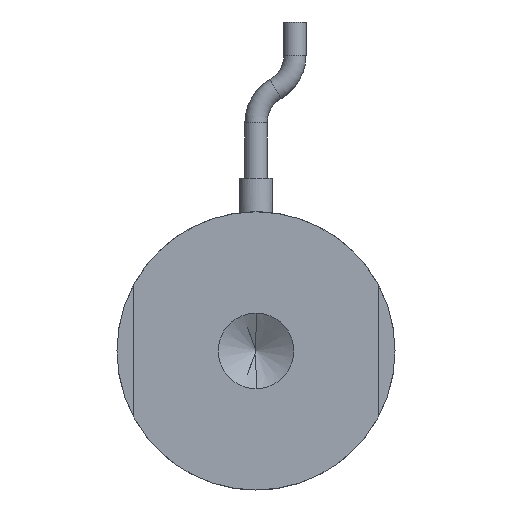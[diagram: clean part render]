
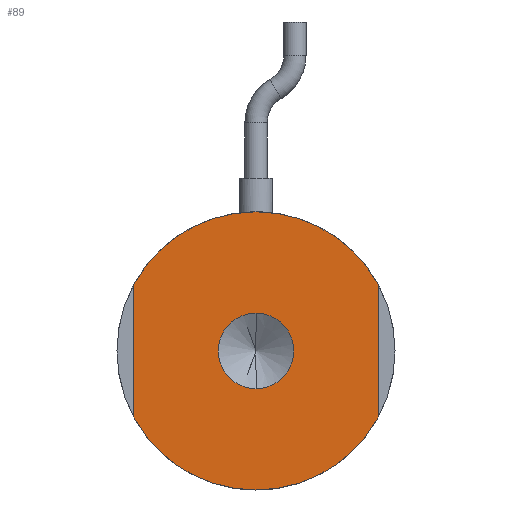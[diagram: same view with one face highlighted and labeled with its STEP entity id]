
A CAD part, front view. The second image highlights one B-rep face of the part: STEP entity #89.
In plain terms, the highlighted planar face has unit normal (0, -1, 0).
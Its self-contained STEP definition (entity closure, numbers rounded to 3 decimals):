
#89 = ADVANCED_FACE ( 'NONE', ( #26316, #44631 ), #21420, .F. ) ;
#108 = DIRECTION ( 'NONE',  ( 0., 1., 0. ) ) ;
#2058 = CARTESIAN_POINT ( 'NONE',  ( 0., 0., -12.5 ) ) ;
#2111 = CARTESIAN_POINT ( 'NONE',  ( 0., 0., 3.4 ) ) ;
#2382 = CIRCLE ( 'NONE', #31626, 12.5 ) ;
#2419 = CARTESIAN_POINT ( 'NONE',  ( 0., 0., 0. ) ) ;
#2482 = AXIS2_PLACEMENT_3D ( 'NONE', #24730, #3272, #28342 ) ;
#2582 = CARTESIAN_POINT ( 'NONE',  ( -11., 0., -5.937 ) ) ;
#2799 = CARTESIAN_POINT ( 'NONE',  ( -11., 0., 0. ) ) ;
#3272 = DIRECTION ( 'NONE',  ( 0., -1., 0. ) ) ;
#4032 = AXIS2_PLACEMENT_3D ( 'NONE', #35169, #13910, #38615 ) ;
#4459 = VERTEX_POINT ( 'NONE', #32992 ) ;
#4636 = ORIENTED_EDGE ( 'NONE', *, *, #41719, .F. ) ;
#4978 = VECTOR ( 'NONE', #34311, 1000. ) ;
#5203 = CIRCLE ( 'NONE', #4032, 3.4 ) ;
#5210 = EDGE_LOOP ( 'NONE', ( #4636, #36019 ) ) ;
#5829 = CARTESIAN_POINT ( 'NONE',  ( 0., 0., 12.5 ) ) ;
#5958 = DIRECTION ( 'NONE',  ( 0., 0., 1. ) ) ;
#6734 = VERTEX_POINT ( 'NONE', #5829 ) ;
#8045 = AXIS2_PLACEMENT_3D ( 'NONE', #2419, #27483, #5958 ) ;
#8086 = AXIS2_PLACEMENT_3D ( 'NONE', #21500, #108, #25138 ) ;
#8159 = EDGE_CURVE ( 'NONE', #40432, #28116, #41391, .T. ) ;
#9712 = CIRCLE ( 'NONE', #2482, 3.4 ) ;
#9881 = LINE ( 'NONE', #2799, #30112 ) ;
#11429 = EDGE_CURVE ( 'NONE', #4459, #6734, #19432, .T. ) ;
#12204 = CARTESIAN_POINT ( 'NONE',  ( 0., 0., 0. ) ) ;
#13328 = CARTESIAN_POINT ( 'NONE',  ( 11., 0., -5.937 ) ) ;
#13535 = VERTEX_POINT ( 'NONE', #2058 ) ;
#13910 = DIRECTION ( 'NONE',  ( 0., -1., 0. ) ) ;
#15536 = DIRECTION ( 'NONE',  ( 0., 0., 1. ) ) ;
#15802 = DIRECTION ( 'NONE',  ( 0., 0., 1. ) ) ;
#16244 = EDGE_CURVE ( 'NONE', #6734, #40432, #28398, .T. ) ;
#16523 = DIRECTION ( 'NONE',  ( 0., 1., 0. ) ) ;
#16869 = CARTESIAN_POINT ( 'NONE',  ( 0., 0., 0. ) ) ;
#17929 = CARTESIAN_POINT ( 'NONE',  ( 0., 0., -3.4 ) ) ;
#19432 = CIRCLE ( 'NONE', #8045, 12.5 ) ;
#20490 = DIRECTION ( 'NONE',  ( 0., 0., 1. ) ) ;
#20582 = ORIENTED_EDGE ( 'NONE', *, *, #41084, .F. ) ;
#21420 = PLANE ( 'NONE',  #41537 ) ;
#21500 = CARTESIAN_POINT ( 'NONE',  ( 0., 0., 0. ) ) ;
#21917 = EDGE_CURVE ( 'NONE', #39411, #27584, #5203, .T. ) ;
#23703 = EDGE_LOOP ( 'NONE', ( #25145, #20582, #35420, #44523, #45063, #24976 ) ) ;
#24707 = EDGE_CURVE ( 'NONE', #28116, #13535, #2382, .T. ) ;
#24730 = CARTESIAN_POINT ( 'NONE',  ( 0., 0., 0. ) ) ;
#24866 = VERTEX_POINT ( 'NONE', #2582 ) ;
#24976 = ORIENTED_EDGE ( 'NONE', *, *, #11429, .F. ) ;
#25138 = DIRECTION ( 'NONE',  ( 0., 0., 1. ) ) ;
#25145 = ORIENTED_EDGE ( 'NONE', *, *, #33490, .F. ) ;
#26316 = FACE_BOUND ( 'NONE', #5210, .T. ) ;
#27483 = DIRECTION ( 'NONE',  ( 0., 1., 0. ) ) ;
#27584 = VERTEX_POINT ( 'NONE', #17929 ) ;
#27863 = DIRECTION ( 'NONE',  ( 0., 0., 1. ) ) ;
#28116 = VERTEX_POINT ( 'NONE', #13328 ) ;
#28342 = DIRECTION ( 'NONE',  ( 0., 0., -1. ) ) ;
#28398 = CIRCLE ( 'NONE', #33134, 12.5 ) ;
#30112 = VECTOR ( 'NONE', #27863, 1000. ) ;
#31245 = CARTESIAN_POINT ( 'NONE',  ( 11., 0., 5.937 ) ) ;
#31617 = CARTESIAN_POINT ( 'NONE',  ( 0., 0., 0. ) ) ;
#31626 = AXIS2_PLACEMENT_3D ( 'NONE', #12204, #36968, #15802 ) ;
#32992 = CARTESIAN_POINT ( 'NONE',  ( -11., 0., 5.937 ) ) ;
#33134 = AXIS2_PLACEMENT_3D ( 'NONE', #16869, #41406, #20490 ) ;
#33490 = EDGE_CURVE ( 'NONE', #24866, #4459, #9881, .T. ) ;
#34311 = DIRECTION ( 'NONE',  ( 0., 0., -1. ) ) ;
#35169 = CARTESIAN_POINT ( 'NONE',  ( 0., 0., 0. ) ) ;
#35420 = ORIENTED_EDGE ( 'NONE', *, *, #24707, .F. ) ;
#36019 = ORIENTED_EDGE ( 'NONE', *, *, #21917, .F. ) ;
#36968 = DIRECTION ( 'NONE',  ( 0., 1., 0. ) ) ;
#37604 = CARTESIAN_POINT ( 'NONE',  ( 11., 0., 0. ) ) ;
#38615 = DIRECTION ( 'NONE',  ( 0., 0., -1. ) ) ;
#39411 = VERTEX_POINT ( 'NONE', #2111 ) ;
#40432 = VERTEX_POINT ( 'NONE', #31245 ) ;
#41084 = EDGE_CURVE ( 'NONE', #13535, #24866, #44402, .T. ) ;
#41391 = LINE ( 'NONE', #37604, #4978 ) ;
#41406 = DIRECTION ( 'NONE',  ( 0., 1., 0. ) ) ;
#41537 = AXIS2_PLACEMENT_3D ( 'NONE', #31617, #16523, #15536 ) ;
#41719 = EDGE_CURVE ( 'NONE', #27584, #39411, #9712, .T. ) ;
#44402 = CIRCLE ( 'NONE', #8086, 12.5 ) ;
#44523 = ORIENTED_EDGE ( 'NONE', *, *, #8159, .F. ) ;
#44631 = FACE_OUTER_BOUND ( 'NONE', #23703, .T. ) ;
#45063 = ORIENTED_EDGE ( 'NONE', *, *, #16244, .F. ) ;
